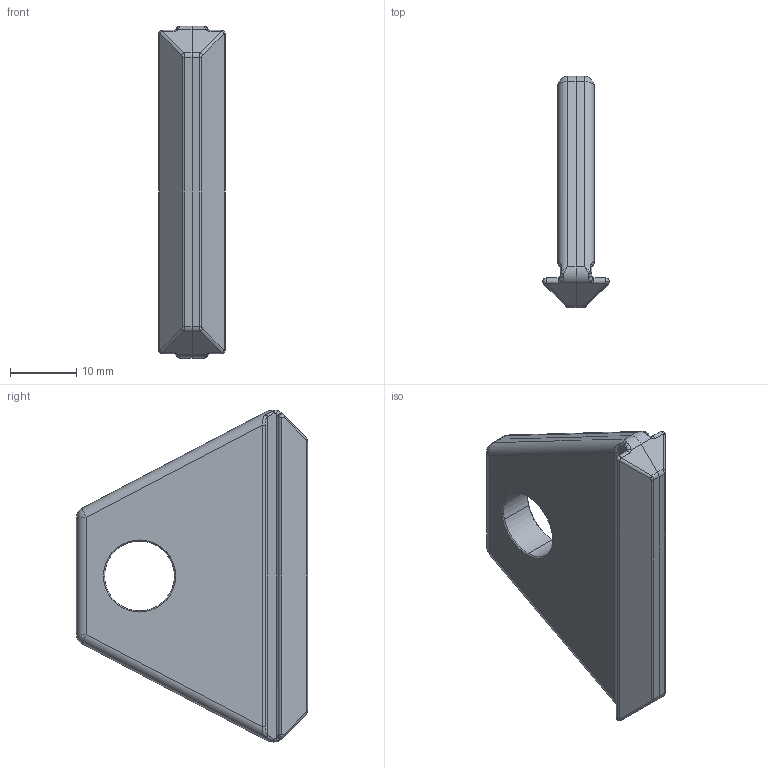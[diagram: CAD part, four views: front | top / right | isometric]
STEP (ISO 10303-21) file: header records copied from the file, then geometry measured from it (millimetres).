
FILE_DESCRIPTION (( 'STEP AP214' ), '1' );
FILE_NAME ('093009.STEP', '2013-02-27T15:26:07', ( '' ), ( '' ), 'SwSTEP 2.0', 'SolidWorks 2012', '' );
FILE_SCHEMA (( 'AUTOMOTIVE_DESIGN' ));
Length unit declared in the file: millimetre
Products named in the file (1): 093009
Bounding box: 10 x 34.8 x 50 mm (x, y, z)
Volume: 6692.7 mm3; surface area: 3468.8 mm2
Topology: 1 solids, 1 shells, 113 faces, 256 edges, 133 vertices
Faces by surface type: cylinder 47, plane 20, bspline 20, sphere 18, cone 4, torus 4
Entity records: 3471 total; most frequent: CARTESIAN_POINT 1111, DIRECTION 497, ORIENTED_EDGE 488, EDGE_CURVE 244, AXIS2_PLACEMENT_3D 201, VERTEX_POINT 133, EDGE_LOOP 115, ADVANCED_FACE 113
